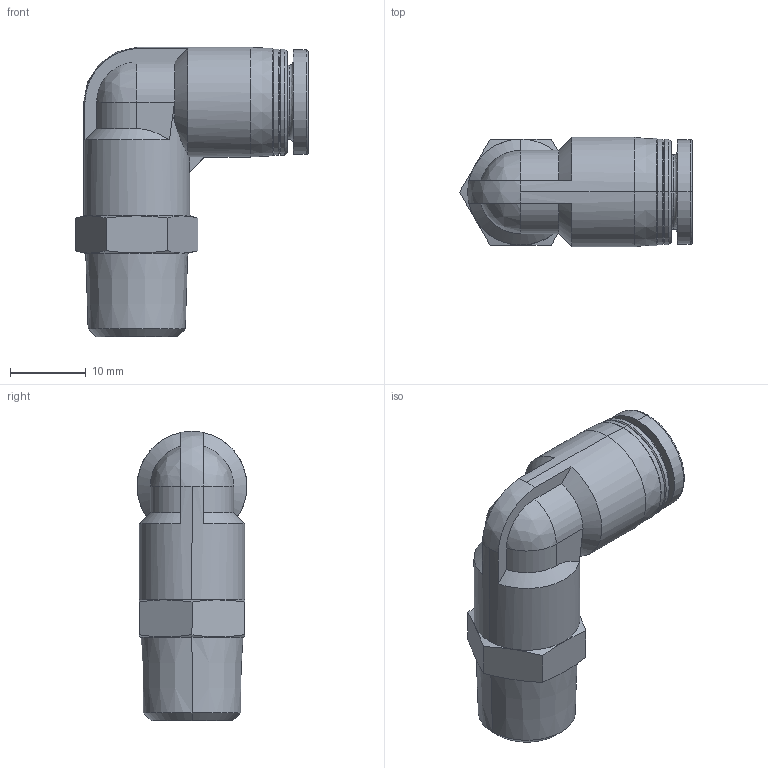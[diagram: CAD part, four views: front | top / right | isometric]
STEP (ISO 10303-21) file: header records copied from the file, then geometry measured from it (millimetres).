
FILE_DESCRIPTION (( 'STEP AP214' ), '1' );
FILE_NAME ('KQ2L08-02AS.STEP', '2023-03-06T09:51:43', ( 'Windows User' ), ( 'P R C' ), 'SwSTEP 2.0', 'SolidWorks 2019', '' );
FILE_SCHEMA (( 'AUTOMOTIVE_DESIGN' ));
Length unit declared in the file: millimetre
Products named in the file (1): KQ2L08-02AS
Bounding box: 30.78 x 14.5 x 38.25 mm (x, y, z)
Volume: 6699.7 mm3; surface area: 3220.5 mm2
Topology: 1 solids, 1 shells, 75 faces, 173 edges, 105 vertices
Faces by surface type: cone 26, plane 22, cylinder 20, bspline 7
Entity records: 2662 total; most frequent: CARTESIAN_POINT 1007, ORIENTED_EDGE 346, DIRECTION 328, EDGE_CURVE 173, AXIS2_PLACEMENT_3D 133, VERTEX_POINT 105, EDGE_LOOP 80, FACE_OUTER_BOUND 75
